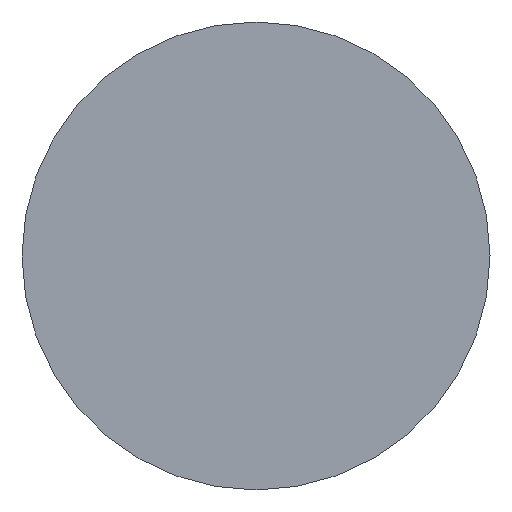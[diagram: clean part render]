
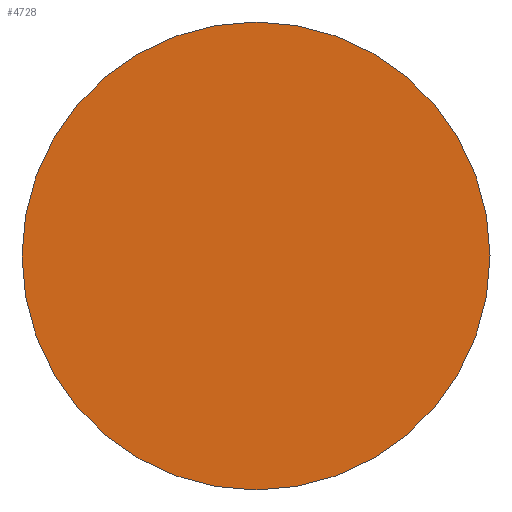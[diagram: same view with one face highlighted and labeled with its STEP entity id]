
A CAD part, left-side view. The second image highlights one B-rep face of the part: STEP entity #4728.
In plain terms, the highlighted planar face has unit normal (-1, 0, 0) as drawn and (0, 0, 1) by its records, which use the part's own axes.
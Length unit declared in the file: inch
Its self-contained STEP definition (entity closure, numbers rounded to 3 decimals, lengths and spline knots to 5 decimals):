
#3389=VERTEX_POINT($,#5977);
#3654=CIRCLE($,#6707,1.125);
#3846=EDGE_CURVE($,#3389,#3389,#3654,.T.);
#4320=ORIENTED_EDGE($,*,*,#3846,.T.);
#4616=EDGE_LOOP($,(#4320));
#4678=FACE_BOUND($,#4616,.T.);
#4728=ADVANCED_FACE($,(#4678),#4766,.T.);
#4766=PLANE($,#6706);
#5024=DIRECTION($,(0.,0.,1.));
#5025=DIRECTION($,(0.,0.,1.));
#5026=DIRECTION($,(1.125,0.,0.));
#5975=CARTESIAN_POINT($,(0.,0.,1.84375));
#5976=CARTESIAN_POINT($,(0.,0.,1.84375));
#5977=CARTESIAN_POINT($,(-1.125,0.,1.84375));
#6706=AXIS2_PLACEMENT_3D($,#5975,#5024,$);
#6707=AXIS2_PLACEMENT_3D($,#5976,#5025,#5026);
